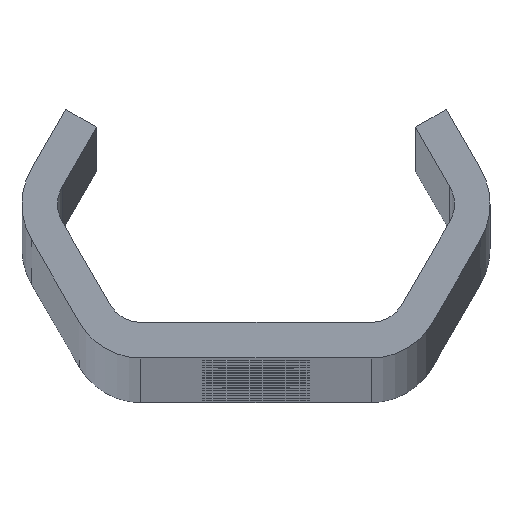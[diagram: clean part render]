
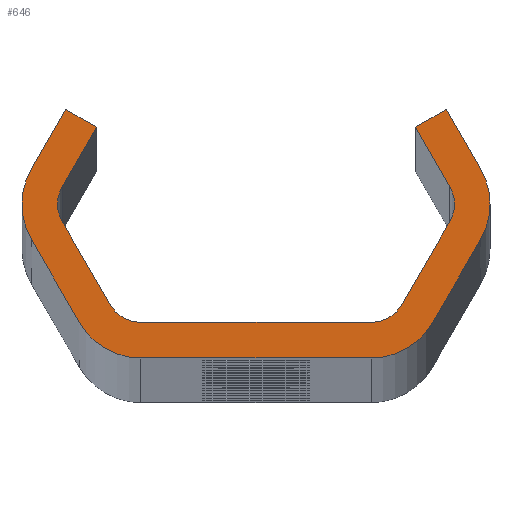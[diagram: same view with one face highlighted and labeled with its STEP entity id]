
A CAD part, top view. The second image highlights one B-rep face of the part: STEP entity #646.
In plain terms, the highlighted planar face has unit normal (0, 0, 1).
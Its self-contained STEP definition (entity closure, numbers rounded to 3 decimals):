
#646=ADVANCED_FACE('NONE',(#1789),#1790,.F.);
#1789=FACE_OUTER_BOUND('',#5773,.T.);
#1790=PLANE('',#5774);
#5773=EDGE_LOOP('',(#11686,#11687,#11688,#11689,#11690,#11691,#11692,#11693,#11694,#11695,#11696,#11697,#11698,#11699,#11700,#11701,#11702,#11703,#11704,#11705,#11706,#11707,#11708,#11709));
#5774=AXIS2_PLACEMENT_3D('',#11710,#11711,#11712);
#11686=ORIENTED_EDGE('',*,*,#15613,.T.);
#11687=ORIENTED_EDGE('',*,*,#15651,.T.);
#11688=ORIENTED_EDGE('',*,*,#15281,.T.);
#11689=ORIENTED_EDGE('',*,*,#15615,.T.);
#11690=ORIENTED_EDGE('',*,*,#15652,.T.);
#11691=ORIENTED_EDGE('',*,*,#15619,.T.);
#11692=ORIENTED_EDGE('',*,*,#15653,.T.);
#11693=ORIENTED_EDGE('',*,*,#15288,.T.);
#11694=ORIENTED_EDGE('',*,*,#15654,.T.);
#11695=ORIENTED_EDGE('',*,*,#14999,.T.);
#11696=ORIENTED_EDGE('',*,*,#15291,.T.);
#11697=ORIENTED_EDGE('',*,*,#15297,.T.);
#11698=ORIENTED_EDGE('',*,*,#15300,.T.);
#11699=ORIENTED_EDGE('',*,*,#15278,.T.);
#11700=ORIENTED_EDGE('',*,*,#15655,.T.);
#11701=ORIENTED_EDGE('',*,*,#15302,.T.);
#11702=ORIENTED_EDGE('',*,*,#15656,.T.);
#11703=ORIENTED_EDGE('',*,*,#15309,.T.);
#11704=ORIENTED_EDGE('',*,*,#15657,.T.);
#11705=ORIENTED_EDGE('',*,*,#15600,.T.);
#11706=ORIENTED_EDGE('',*,*,#15658,.T.);
#11707=ORIENTED_EDGE('',*,*,#14994,.T.);
#11708=ORIENTED_EDGE('',*,*,#15603,.T.);
#11709=ORIENTED_EDGE('',*,*,#15609,.T.);
#11710=CARTESIAN_POINT('',(0.0,0.0,2160.0));
#11711=DIRECTION('',(0.0,0.0,-1.0));
#11712=DIRECTION('',(0.0,-1.0,0.0));
#14994=EDGE_CURVE('NONE',#16714,#16718,#16720,.T.);
#14999=EDGE_CURVE('NONE',#16723,#16727,#16729,.T.);
#15278=EDGE_CURVE('NONE',#17231,#17229,#17232,.T.);
#15281=EDGE_CURVE('NONE',#17235,#17236,#17237,.T.);
#15288=EDGE_CURVE('NONE',#17249,#17247,#17250,.T.);
#15291=EDGE_CURVE('NONE',#16727,#17253,#17254,.T.);
#15297=EDGE_CURVE('NONE',#17253,#17261,#17263,.T.);
#15300=EDGE_CURVE('NONE',#17261,#17231,#17266,.T.);
#15302=EDGE_CURVE('NONE',#17268,#17269,#17270,.T.);
#15309=EDGE_CURVE('NONE',#17282,#17280,#17283,.T.);
#15600=EDGE_CURVE('NONE',#17822,#17820,#17823,.T.);
#15603=EDGE_CURVE('NONE',#16718,#17826,#17827,.T.);
#15609=EDGE_CURVE('NONE',#17826,#17834,#17836,.T.);
#15613=EDGE_CURVE('NONE',#17834,#17840,#17842,.T.);
#15615=EDGE_CURVE('NONE',#17236,#17844,#17845,.T.);
#15619=EDGE_CURVE('NONE',#17850,#17851,#17852,.T.);
#15651=EDGE_CURVE('NONE',#17840,#17235,#17886,.T.);
#15652=EDGE_CURVE('NONE',#17844,#17850,#17887,.T.);
#15653=EDGE_CURVE('NONE',#17851,#17249,#17888,.T.);
#15654=EDGE_CURVE('NONE',#17247,#16723,#17889,.T.);
#15655=EDGE_CURVE('NONE',#17229,#17268,#17890,.T.);
#15656=EDGE_CURVE('NONE',#17269,#17282,#17891,.T.);
#15657=EDGE_CURVE('NONE',#17280,#17822,#17892,.T.);
#15658=EDGE_CURVE('NONE',#17820,#16714,#17893,.T.);
#16714=VERTEX_POINT('',#19264);
#16718=VERTEX_POINT('NONE',#19269);
#16720=CIRCLE('',#19272,3.0);
#16723=VERTEX_POINT('',#19275);
#16727=VERTEX_POINT('NONE',#19280);
#16729=CIRCLE('',#19283,6.0);
#17229=VERTEX_POINT('NONE',#22287);
#17231=VERTEX_POINT('NONE',#22290);
#17232=CIRCLE('',#22291,3.0);
#17235=VERTEX_POINT('NONE',#22295);
#17236=VERTEX_POINT('NONE',#22296);
#17237=CIRCLE('',#22297,6.0);
#17247=VERTEX_POINT('NONE',#22310);
#17249=VERTEX_POINT('NONE',#22313);
#17250=LINE('',#22314,#22315);
#17253=VERTEX_POINT('NONE',#22319);
#17254=LINE('',#22320,#22321);
#17261=VERTEX_POINT('NONE',#22331);
#17263=LINE('',#22334,#22335);
#17266=LINE('',#22339,#22340);
#17268=VERTEX_POINT('NONE',#22342);
#17269=VERTEX_POINT('NONE',#22343);
#17270=LINE('',#22344,#22345);
#17280=VERTEX_POINT('NONE',#22359);
#17282=VERTEX_POINT('NONE',#22362);
#17283=LINE('',#22363,#22364);
#17820=VERTEX_POINT('NONE',#24303);
#17822=VERTEX_POINT('NONE',#24306);
#17823=LINE('',#24307,#24308);
#17826=VERTEX_POINT('NONE',#24312);
#17827=LINE('',#24313,#24314);
#17834=VERTEX_POINT('NONE',#24324);
#17836=LINE('',#24327,#24328);
#17840=VERTEX_POINT('NONE',#24333);
#17842=LINE('',#24336,#24337);
#17844=VERTEX_POINT('NONE',#24339);
#17845=LINE('',#24340,#24341);
#17850=VERTEX_POINT('NONE',#24348);
#17851=VERTEX_POINT('NONE',#24349);
#17852=LINE('',#24350,#24351);
#17886=CIRCLE('',#24388,6.0);
#17887=CIRCLE('',#24389,6.0);
#17888=CIRCLE('',#24390,6.0);
#17889=CIRCLE('',#24391,6.0);
#17890=CIRCLE('',#24392,3.0);
#17891=CIRCLE('',#24393,3.0);
#17892=CIRCLE('',#24394,3.0);
#17893=CIRCLE('',#24395,3.0);
#19264=CARTESIAN_POINT('',(-16.764,0.,2160.0));
#19269=CARTESIAN_POINT('',(-16.362,1.5,2160.0));
#19272=AXIS2_PLACEMENT_3D('',#28919,#28920,#28921);
#19275=CARTESIAN_POINT('',(19.764,0.,2160.0));
#19280=CARTESIAN_POINT('',(18.96,3.,2160.0));
#19283=AXIS2_PLACEMENT_3D('',#28927,#28928,#28929);
#22287=CARTESIAN_POINT('',(16.764,0.,2160.0));
#22290=CARTESIAN_POINT('',(16.362,1.5,2160.0));
#22291=AXIS2_PLACEMENT_3D('',#29206,#29207,#29208);
#22295=CARTESIAN_POINT('',(-19.764,0.,2160.0));
#22296=CARTESIAN_POINT('',(-18.96,-3.,2160.0));
#22297=AXIS2_PLACEMENT_3D('',#29210,#29211,#29212);
#22310=CARTESIAN_POINT('',(18.96,-3.,2160.0));
#22313=CARTESIAN_POINT('',(14.919,-10.,2160.0));
#22314=CARTESIAN_POINT('',(20.692,0.,2160.0));
#22315=VECTOR('',#29220,1000.0);
#22319=CARTESIAN_POINT('',(16.074,8.,2160.0));
#22320=CARTESIAN_POINT('',(16.074,8.,2160.0));
#22321=VECTOR('',#29222,1000.0);
#22331=CARTESIAN_POINT('',(13.475,6.5,2160.0));
#22334=CARTESIAN_POINT('',(13.475,6.5,2160.0));
#22335=VECTOR('',#29227,1000.0);
#22339=CARTESIAN_POINT('',(17.228,0.,2160.0));
#22340=VECTOR('',#29229,1000.0);
#22342=CARTESIAN_POINT('',(16.362,-1.5,2160.0));
#22343=CARTESIAN_POINT('',(12.321,-8.5,2160.0));
#22344=CARTESIAN_POINT('',(11.455,-10.0,2160.0));
#22345=VECTOR('',#29230,1000.0);
#22359=CARTESIAN_POINT('',(-9.723,-10.0,2160.0));
#22362=CARTESIAN_POINT('',(9.723,-10.0,2160.0));
#22363=CARTESIAN_POINT('',(-11.455,-10.0,2160.0));
#22364=VECTOR('',#29236,1000.0);
#24303=CARTESIAN_POINT('',(-16.362,-1.5,2160.0));
#24306=CARTESIAN_POINT('',(-12.321,-8.5,2160.0));
#24307=CARTESIAN_POINT('',(-17.228,0.,2160.0));
#24308=VECTOR('',#29552,1000.0);
#24312=CARTESIAN_POINT('',(-13.475,6.5,2160.0));
#24313=CARTESIAN_POINT('',(-13.475,6.5,2160.0));
#24314=VECTOR('',#29554,1000.0);
#24324=CARTESIAN_POINT('',(-16.074,8.,2160.0));
#24327=CARTESIAN_POINT('',(-13.475,6.5,2160.0));
#24328=VECTOR('',#29559,1000.0);
#24333=CARTESIAN_POINT('',(-18.96,3.,2160.0));
#24336=CARTESIAN_POINT('',(-16.074,8.,2160.0));
#24337=VECTOR('',#29562,1000.0);
#24339=CARTESIAN_POINT('',(-14.919,-10.,2160.0));
#24340=CARTESIAN_POINT('',(-20.692,0.,2160.0));
#24341=VECTOR('',#29563,1000.0);
#24348=CARTESIAN_POINT('',(-9.723,-13.0,2160.0));
#24349=CARTESIAN_POINT('',(9.723,-13.0,2160.0));
#24350=CARTESIAN_POINT('',(-13.187,-13.0,2160.0));
#24351=VECTOR('',#29566,1000.0);
#24388=AXIS2_PLACEMENT_3D('',#29651,#29652,#29653);
#24389=AXIS2_PLACEMENT_3D('',#29654,#29655,#29656);
#24390=AXIS2_PLACEMENT_3D('',#29657,#29658,#29659);
#24391=AXIS2_PLACEMENT_3D('',#29660,#29661,#29662);
#24392=AXIS2_PLACEMENT_3D('',#29663,#29664,#29665);
#24393=AXIS2_PLACEMENT_3D('',#29666,#29667,#29668);
#24394=AXIS2_PLACEMENT_3D('',#29669,#29670,#29671);
#24395=AXIS2_PLACEMENT_3D('',#29672,#29673,#29674);
#28919=CARTESIAN_POINT('',(-13.764,0.,2160.0));
#28920=DIRECTION('',(0.0,0.0,-1.0));
#28921=DIRECTION('',(-1.0,0.0,0.0));
#28927=CARTESIAN_POINT('',(13.764,0.,2160.0));
#28928=DIRECTION('',(0.0,0.0,1.0));
#28929=DIRECTION('',(-1.0,0.0,0.0));
#29206=CARTESIAN_POINT('',(13.764,0.,2160.0));
#29207=DIRECTION('',(0.0,0.0,-1.0));
#29208=DIRECTION('',(-1.0,0.0,0.0));
#29210=CARTESIAN_POINT('',(-13.764,0.,2160.0));
#29211=DIRECTION('',(0.0,0.0,1.0));
#29212=DIRECTION('',(-1.0,0.0,0.0));
#29220=DIRECTION('',(0.5,0.866,-0.0));
#29222=DIRECTION('',(-0.5,0.866,-0.0));
#29227=DIRECTION('',(-0.866,-0.5,-0.0));
#29229=DIRECTION('',(0.5,-0.866,-0.0));
#29230=DIRECTION('',(-0.5,-0.866,-0.0));
#29236=DIRECTION('',(-1.0,0.,-0.0));
#29552=DIRECTION('',(-0.5,0.866,-0.0));
#29554=DIRECTION('',(0.5,0.866,-0.0));
#29559=DIRECTION('',(-0.866,0.5,0.0));
#29562=DIRECTION('',(-0.5,-0.866,0.0));
#29563=DIRECTION('',(0.5,-0.866,0.0));
#29566=DIRECTION('',(1.0,0.0,0.0));
#29651=CARTESIAN_POINT('',(-13.764,0.,2160.0));
#29652=DIRECTION('',(0.0,0.0,1.0));
#29653=DIRECTION('',(-1.0,0.,0.0));
#29654=CARTESIAN_POINT('',(-9.723,-7.0,2160.0));
#29655=DIRECTION('',(0.0,0.0,1.0));
#29656=DIRECTION('',(-1.0,0.0,0.0));
#29657=CARTESIAN_POINT('',(9.723,-7.0,2160.0));
#29658=DIRECTION('',(0.0,0.0,1.0));
#29659=DIRECTION('',(-1.0,0.,0.0));
#29660=CARTESIAN_POINT('',(13.764,0.,2160.0));
#29661=DIRECTION('',(0.0,0.0,1.0));
#29662=DIRECTION('',(-1.0,0.0,0.0));
#29663=CARTESIAN_POINT('',(13.764,0.,2160.0));
#29664=DIRECTION('',(0.0,0.0,-1.0));
#29665=DIRECTION('',(-1.0,0.0,0.0));
#29666=CARTESIAN_POINT('',(9.723,-7.0,2160.0));
#29667=DIRECTION('',(0.0,0.0,-1.0));
#29668=DIRECTION('',(-1.0,0.0,0.0));
#29669=CARTESIAN_POINT('',(-9.723,-7.0,2160.0));
#29670=DIRECTION('',(0.0,0.0,-1.0));
#29671=DIRECTION('',(-1.0,0.0,0.0));
#29672=CARTESIAN_POINT('',(-13.764,0.,2160.0));
#29673=DIRECTION('',(0.0,0.0,-1.0));
#29674=DIRECTION('',(-1.0,0.0,0.0));
